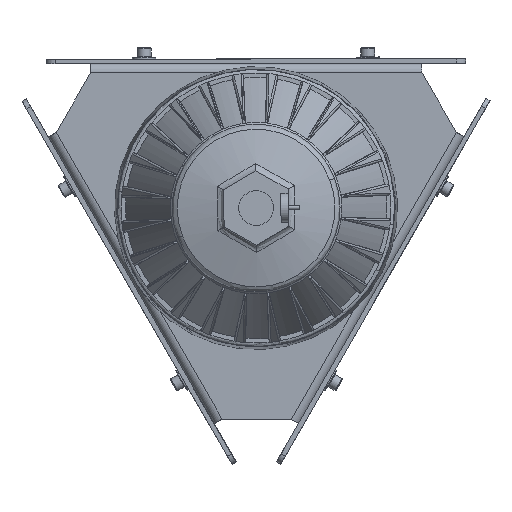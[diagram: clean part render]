
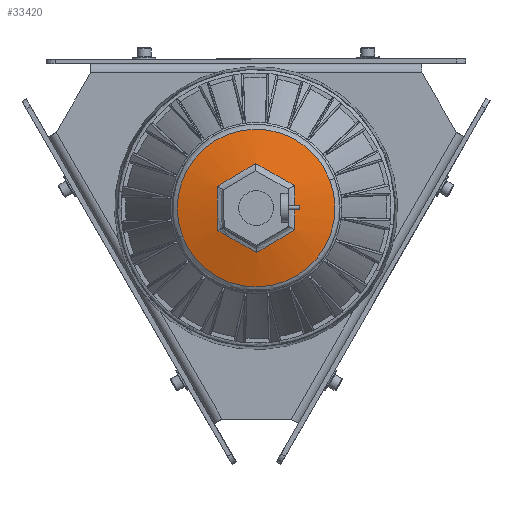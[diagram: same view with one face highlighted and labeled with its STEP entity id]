
A CAD part, front view. The second image highlights one B-rep face of the part: STEP entity #33420.
In plain terms, the highlighted free-form (B-spline) face has degree [3, 3] with [4, 4] control points.
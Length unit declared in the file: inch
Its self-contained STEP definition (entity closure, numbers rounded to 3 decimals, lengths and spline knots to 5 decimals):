
#77 = EDGE_CURVE ( 'NONE', #61877, #25331, #23799, .T. ) ;
#570 = CIRCLE ( 'NONE', #46437, 6.44588 ) ;
#1559 = VERTEX_POINT ( 'NONE', #44796 ) ;
#2237 = VERTEX_POINT ( 'NONE', #16973 ) ;
#2255 = AXIS2_PLACEMENT_3D ( 'NONE', #42971, #47975, #8543 ) ;
#3060 = CARTESIAN_POINT ( 'NONE',  ( -0.91388, 2.79011, 0.76648 ) ) ;
#3835 = CARTESIAN_POINT ( 'NONE',  ( -0.66379, -3.62812, -0.79144 ) ) ;
#5451 = DIRECTION ( 'NONE',  ( 0.643, 0., 0.766 ) ) ;
#5522 = CARTESIAN_POINT ( 'NONE',  ( 1.12073, 2.79011, 0.4082 ) ) ;
#6380 = CARTESIAN_POINT ( 'NONE',  ( 0.73988, 2.65931, -2.18084 ) ) ;
#6706 = CARTESIAN_POINT ( 'NONE',  ( 2.14663, 2.6561, -0.69538 ) ) ;
#7373 = CARTESIAN_POINT ( 'NONE',  ( 0.73988, 2.65527, 2.19245 ) ) ;
#8543 = DIRECTION ( 'NONE',  ( 0.94, 0., 0.342 ) ) ;
#8576 = CIRCLE ( 'NONE', #46991, 2.11479 ) ;
#9775 = DIRECTION ( 'NONE',  ( 0.342, 0., -0.94 ) ) ;
#10205 = EDGE_CURVE ( 'NONE', #2237, #55036, #8576, .T. ) ;
#10471 = CARTESIAN_POINT ( 'NONE',  ( 0.66379, -3.62812, 0.79144 ) ) ;
#11740 = CARTESIAN_POINT ( 'NONE',  ( -0.7497, 3.15287, 0.76304 ) ) ;
#12068 = FACE_BOUND ( 'NONE', #15606, .T. ) ;
#13133 = CARTESIAN_POINT ( 'NONE',  ( -1.12073, 2.79011, -0.4082 ) ) ;
#14464 = VERTEX_POINT ( 'NONE', #5522 ) ;
#15157 = CARTESIAN_POINT ( 'NONE',  ( -0.20685, 2.79011, -1.17468 ) ) ;
#15606 = EDGE_LOOP ( 'NONE', ( #55044, #47245, #64875, #20134, #57866, #52615 ) ) ;
#16973 = CARTESIAN_POINT ( 'NONE',  ( 0., 2.54796, 2.11479 ) ) ;
#17190 = CARTESIAN_POINT ( 'NONE',  ( 0.91388, 2.79011, -0.76648 ) ) ;
#17408 = CARTESIAN_POINT ( 'NONE',  ( -0.7497, 3.15426, -0.75051 ) ) ;
#17874 = DIRECTION ( 'NONE',  ( 0.985, 0., -0.173 ) ) ;
#17901 = CIRCLE ( 'NONE', #55239, 6.44588 ) ;
#18149 = CARTESIAN_POINT ( 'NONE',  ( 0., 2.54796, 0. ) ) ;
#18918 = EDGE_CURVE ( 'NONE', #55036, #2237, #59702, .T. ) ;
#19182 = CARTESIAN_POINT ( 'NONE',  ( 1.0173, -3.62812, -0.17914 ) ) ;
#20134 = ORIENTED_EDGE ( 'NONE', *, *, #65731, .T. ) ;
#21654 = AXIS2_PLACEMENT_3D ( 'NONE', #65607, #25473, #56553 ) ;
#22073 = FACE_OUTER_BOUND ( 'NONE', #56733, .T. ) ;
#22382 = EDGE_CURVE ( 'NONE', #1559, #61877, #25712, .T. ) ;
#22416 = CARTESIAN_POINT ( 'NONE',  ( 2.14663, 2.19654, -2.02033 ) ) ;
#23799 = CIRCLE ( 'NONE', #21654, 6.44588 ) ;
#24544 = DIRECTION ( 'NONE',  ( -0.643, 0., -0.766 ) ) ;
#25131 = DIRECTION ( 'NONE',  ( -0.94, 0., -0.342 ) ) ;
#25331 = VERTEX_POINT ( 'NONE', #13133 ) ;
#25473 = DIRECTION ( 'NONE',  ( -0.985, 0., 0.173 ) ) ;
#25712 = CIRCLE ( 'NONE', #2255, 6.44588 ) ;
#27090 = CARTESIAN_POINT ( 'NONE',  ( -2.15572, 2.1898, 2.03004 ) ) ;
#30829 = DIRECTION ( 'NONE',  ( 0.766, 0., -0.643 ) ) ;
#31432 = CARTESIAN_POINT ( 'NONE',  ( 0.73988, 3.15538, -0.75063 ) ) ;
#31440 = DIRECTION ( 'NONE',  ( 0., 0., -1. ) ) ;
#31541 = EDGE_CURVE ( 'NONE', #36737, #14464, #45444, .T. ) ;
#31915 = AXIS2_PLACEMENT_3D ( 'NONE', #18149, #34163, #39835 ) ;
#32096 = DIRECTION ( 'NONE',  ( 0., -1., 0. ) ) ;
#33420 = ADVANCED_FACE ( 'NONE', ( #12068, #22073 ), #64710, .T. ) ;
#34163 = DIRECTION ( 'NONE',  ( 0., -1., 0. ) ) ;
#34543 = DIRECTION ( 'NONE',  ( -0.173, 0., -0.985 ) ) ;
#36463 = CARTESIAN_POINT ( 'NONE',  ( -2.15572, 2.65157, 0.70663 ) ) ;
#36737 = VERTEX_POINT ( 'NONE', #17190 ) ;
#37129 = CARTESIAN_POINT ( 'NONE',  ( 2.14663, 2.65481, 0.70699 ) ) ;
#37467 = CARTESIAN_POINT ( 'NONE',  ( -0.7497, 2.65423, 2.19209 ) ) ;
#39835 = DIRECTION ( 'NONE',  ( 0., 0., -1. ) ) ;
#42135 = CARTESIAN_POINT ( 'NONE',  ( -2.15572, 2.65287, -0.69503 ) ) ;
#42470 = CARTESIAN_POINT ( 'NONE',  ( 0., 2.54796, 0. ) ) ;
#42971 = CARTESIAN_POINT ( 'NONE',  ( -0.35351, -3.62812, 0.97058 ) ) ;
#43176 = ORIENTED_EDGE ( 'NONE', *, *, #10205, .F. ) ;
#44796 = CARTESIAN_POINT ( 'NONE',  ( 0.20685, 2.79011, 1.17468 ) ) ;
#44911 = DIRECTION ( 'NONE',  ( -0.766, 0., 0.643 ) ) ;
#45444 = CIRCLE ( 'NONE', #61515, 6.44588 ) ;
#46437 = AXIS2_PLACEMENT_3D ( 'NONE', #10471, #5451, #30829 ) ;
#46991 = AXIS2_PLACEMENT_3D ( 'NONE', #42470, #32096, #31440 ) ;
#47245 = ORIENTED_EDGE ( 'NONE', *, *, #22382, .T. ) ;
#47461 = CARTESIAN_POINT ( 'NONE',  ( 0.73988, 3.15398, 0.76317 ) ) ;
#47843 = ORIENTED_EDGE ( 'NONE', *, *, #18918, .F. ) ;
#47975 = DIRECTION ( 'NONE',  ( -0.342, 0., 0.94 ) ) ;
#48647 = EDGE_CURVE ( 'NONE', #56424, #36737, #17901, .T. ) ;
#52472 = CARTESIAN_POINT ( 'NONE',  ( 2.14663, 2.19279, 2.03108 ) ) ;
#52543 = AXIS2_PLACEMENT_3D ( 'NONE', #3835, #24544, #44911 ) ;
#52615 = ORIENTED_EDGE ( 'NONE', *, *, #31541, .T. ) ;
#54339 = EDGE_CURVE ( 'NONE', #14464, #1559, #570, .T. ) ;
#55036 = VERTEX_POINT ( 'NONE', #60452 ) ;
#55044 = ORIENTED_EDGE ( 'NONE', *, *, #54339, .T. ) ;
#55239 = AXIS2_PLACEMENT_3D ( 'NONE', #55556, #9775, #25131 ) ;
#55556 = CARTESIAN_POINT ( 'NONE',  ( 0.35351, -3.62812, -0.97058 ) ) ;
#56424 = VERTEX_POINT ( 'NONE', #15157 ) ;
#56553 = DIRECTION ( 'NONE',  ( 0.173, 0., 0.985 ) ) ;
#56733 = EDGE_LOOP ( 'NONE', ( #47843, #43176 ) ) ;
#57851 = CARTESIAN_POINT ( 'NONE',  ( -2.15572, 2.19354, -2.01929 ) ) ;
#57866 = ORIENTED_EDGE ( 'NONE', *, *, #48647, .T. ) ;
#59702 = CIRCLE ( 'NONE', #31915, 2.11479 ) ;
#60022 = CIRCLE ( 'NONE', #52543, 6.44588 ) ;
#60452 = CARTESIAN_POINT ( 'NONE',  ( 0., 2.54796, -2.11479 ) ) ;
#61515 = AXIS2_PLACEMENT_3D ( 'NONE', #19182, #17874, #34543 ) ;
#61877 = VERTEX_POINT ( 'NONE', #3060 ) ;
#62201 = CARTESIAN_POINT ( 'NONE',  ( -0.7497, 2.65827, -2.18048 ) ) ;
#64710 =( BOUNDED_SURFACE ( )  B_SPLINE_SURFACE ( 3, 3, ( 
 ( #22416, #6706, #37129, #52472 ),
 ( #6380, #31432, #47461, #7373 ),
 ( #62201, #17408, #11740, #37467 ),
 ( #57851, #42135, #36463, #27090 ) ),
 .UNSPECIFIED., .F., .F., .F. ) 
 B_SPLINE_SURFACE_WITH_KNOTS ( ( 4, 4 ),
 ( 4, 4 ),
 ( 0., 1. ),
 ( 0., 1. ),
 .UNSPECIFIED. ) 
 GEOMETRIC_REPRESENTATION_ITEM ( )  RATIONAL_B_SPLINE_SURFACE ( (
 ( 1., 0.963, 0.963, 1.),
 ( 0.963, 0.927, 0.927, 0.963),
 ( 0.963, 0.927, 0.927, 0.963),
 ( 1., 0.963, 0.963, 1.) ) ) 
 REPRESENTATION_ITEM ( '' )  SURFACE ( )  );
#64875 = ORIENTED_EDGE ( 'NONE', *, *, #77, .T. ) ;
#65607 = CARTESIAN_POINT ( 'NONE',  ( -1.0173, -3.62812, 0.17914 ) ) ;
#65731 = EDGE_CURVE ( 'NONE', #25331, #56424, #60022, .T. ) ;
